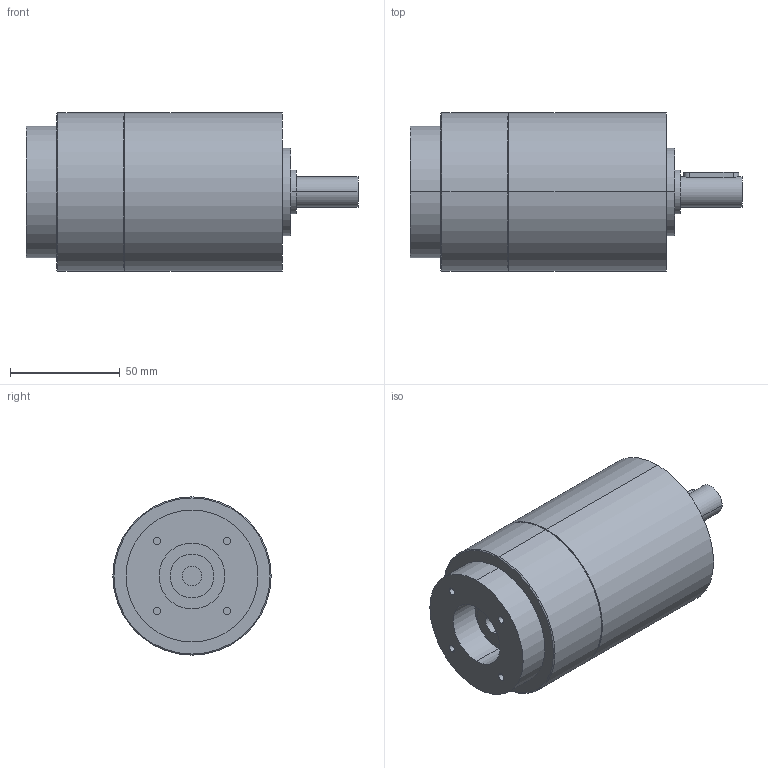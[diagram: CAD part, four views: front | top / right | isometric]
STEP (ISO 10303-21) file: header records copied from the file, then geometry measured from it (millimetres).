
FILE_DESCRIPTION(('CoCreate Modeling STEP Export'),'2;1');
FILE_NAME('GPT75_ig-9-12-16-20-25-28-35-40-50-70-100_14_B14T_9_P16.stp','2014-08-27T13:27:17',(''),(''),'CoCreate Modeling STEP processor for AP214 (Solid Model)','CoCreate Modeling 16.00C 25-Feb-2009 (C) Parametric Technology GmbH','');
FILE_SCHEMA(('AUTOMOTIVE_DESIGN { 1 0 10303 214 1 1 1 1 }'));
Length unit declared in the file: millimetre
Products named in the file (2): GPT75_ig-9-12-16-20-25-28-35-40-50-70-100_14_B14T_9_P16
Assembly tree (1 placements, depth 2):
  GPT75_ig-9-12-16-20-25-28-35-40-50-70-100_14_B14T_9_P16
    GPT75_ig-9-12-16-20-25-28-35-40-50-70-100_14_B14T_9_P16
Bounding box: 151 x 72 x 72 mm (x, y, z)
Volume: 454843.8 mm3; surface area: 39957.2 mm2
Topology: 1 solids, 1 shells, 64 faces, 142 edges, 97 vertices
Faces by surface type: cylinder 38, plane 22, cone 4
Entity records: 1878 total; most frequent: CARTESIAN_POINT 614, ORIENTED_EDGE 284, DIRECTION 210, EDGE_CURVE 142, VERTEX_POINT 97, AXIS2_PLACEMENT_3D 81, EDGE_LOOP 81, FACE_OUTER_BOUND 64
